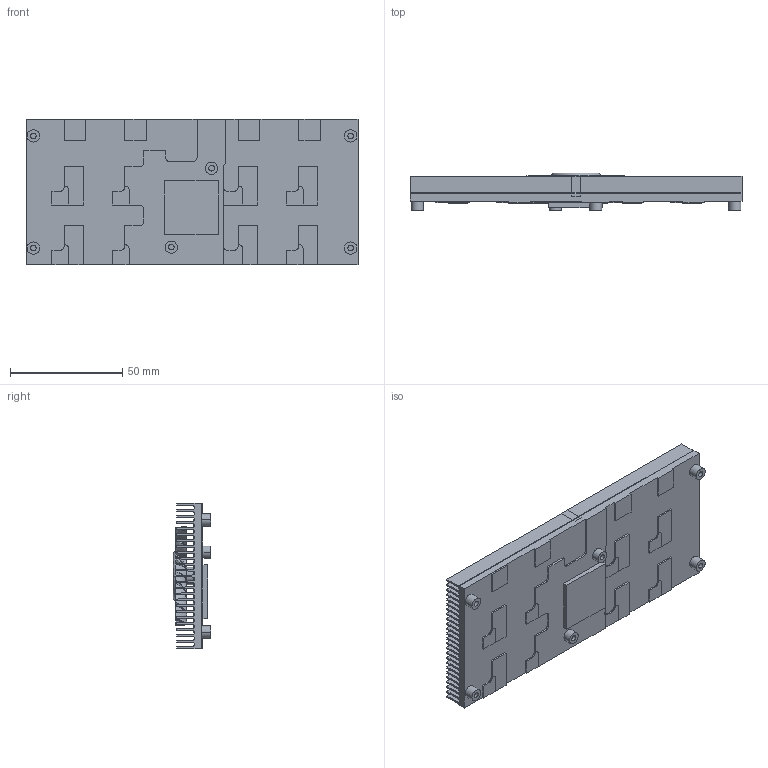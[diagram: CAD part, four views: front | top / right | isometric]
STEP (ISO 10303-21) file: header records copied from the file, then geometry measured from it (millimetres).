
FILE_DESCRIPTION((''),'2;1');
FILE_NAME('M2-PCIEX16','2019-07-29T',('EmmaHsu'),(''),'PRO/ENGINEER BY PARAMETRIC TECHNOLOGY CORPORATION, 2016010','PRO/ENGINEER BY PARAMETRIC TECHNOLOGY CORPORATION, 2016010','');
FILE_SCHEMA(('AUTOMOTIVE_DESIGN { 1 0 10303 214 1 1 1 1 }'));
Length unit declared in the file: millimetre
Products named in the file (1): M2-PCIEX16
Bounding box: 148 x 16.8 x 65 mm (x, y, z)
Volume: 4286.7 mm3; surface area: 75124.2 mm2
Topology: 3 solids, 4 shells, 553 faces, 1538 edges, 1000 vertices
Faces by surface type: plane 318, cylinder 172, bspline 53, torus 6, cone 4
Entity records: 27654 total; most frequent: CARTESIAN_POINT 10043, ORIENTED_EDGE 3020, DIRECTION 2592, EDGE_CURVE 1513, PRESENTATION_STYLE_ASSIGNMENT 1284, STYLED_ITEM 1284, CURVE_STYLE 1277, VERTEX_POINT 1000
